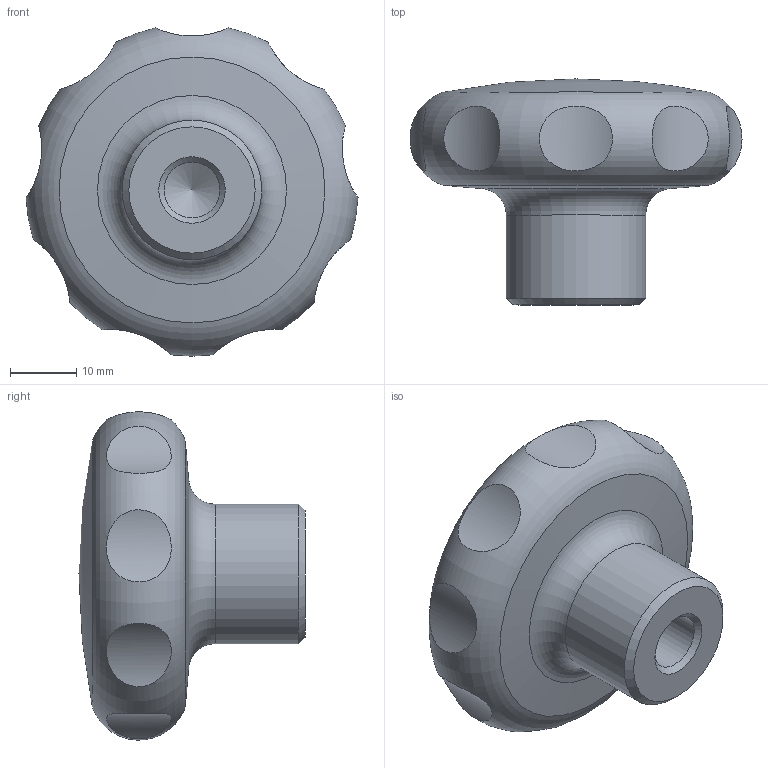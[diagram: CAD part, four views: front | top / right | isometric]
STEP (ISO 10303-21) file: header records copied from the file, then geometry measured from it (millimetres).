
FILE_DESCRIPTION( ( 'STEP AP203' ), '1' );
FILE_NAME( 'C:/Temp/Ganter_Step_05_03_2020/data/2_2/gn_5335/gn_5335_e_pl/Stainless Steel-Star knob GN 5335-50-M10-E-PL.stp', '2020-03-05T12:10:30', ( 'License CC BY-ND 4.0' ), ( 'CADENAS' ), ' ', 'PARTsolutions', ' ' );
FILE_SCHEMA( ( 'CONFIG_CONTROL_DESIGN' ) );
Length unit declared in the file: millimetre
Products named in the file (1): _Stainless Steel-Star knob GN 5335-50-M10-E-PL
Bounding box: 49.94 x 34 x 49.38 mm (x, y, z)
Volume: 30800.2 mm3; surface area: 6696.3 mm2
Topology: 1 solids, 1 shells, 19 faces, 30 edges, 21 vertices
Faces by surface type: cylinder 11, cone 3, torus 2, sphere 2, plane 1
Full cylindrical faces by diameter (mm): 8.376 x1, 21 x1
Entity records: 1138 total; most frequent: CARTESIAN_POINT 794, DIRECTION 58, EDGE_LOOP 36, ORIENTED_EDGE 36, AXIS2_PLACEMENT_3D 29, FACE_OUTER_BOUND 24, VERTEX_POINT 21, ADVANCED_FACE 19
